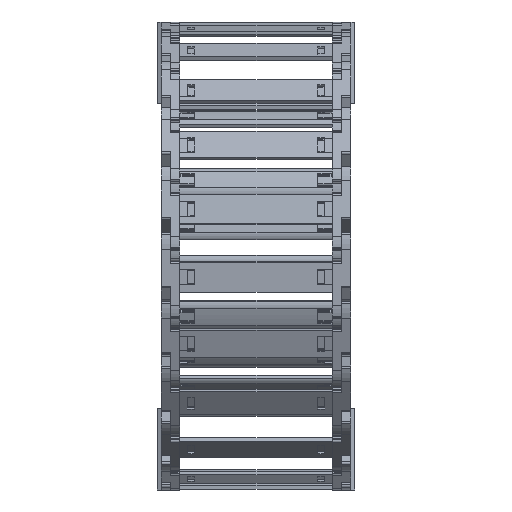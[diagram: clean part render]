
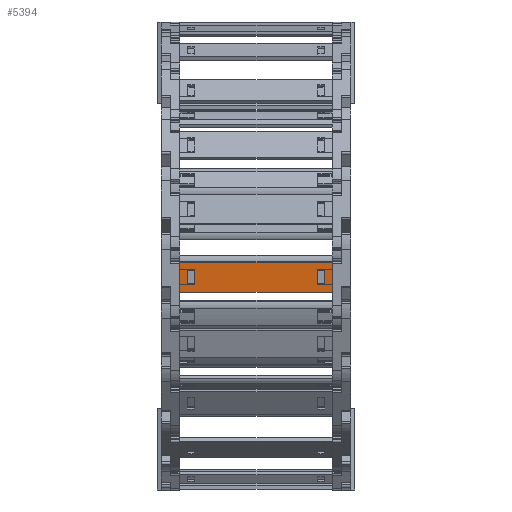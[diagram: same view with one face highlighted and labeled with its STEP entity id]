
A CAD part, left-side view. The second image highlights one B-rep face of the part: STEP entity #5394.
In plain terms, the highlighted planar face has unit normal (-0.996, 0, -0.087) as drawn and (0, 1, 0) by its records, which use the part's own axes.
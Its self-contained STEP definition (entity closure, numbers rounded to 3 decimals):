
#4814=DIRECTION('',(0.,0.,1.));
#4815=VECTOR('',#4814,15.8);
#4816=CARTESIAN_POINT('',(65.74,1.5,-7.9));
#4817=LINE('',#4816,#4815);
#4818=DIRECTION('',(-1.,0.,0.));
#4819=VECTOR('',#4818,80.5);
#4820=CARTESIAN_POINT('',(65.74,1.5,7.9));
#4821=LINE('',#4820,#4819);
#4822=DIRECTION('',(0.,0.,-1.));
#4823=VECTOR('',#4822,15.8);
#4824=CARTESIAN_POINT('',(-14.76,1.5,7.9));
#4825=LINE('',#4824,#4823);
#4826=DIRECTION('',(1.,0.,0.));
#4827=VECTOR('',#4826,3.648);
#4828=CARTESIAN_POINT('',(58.122,1.5,4.075));
#4829=LINE('',#4828,#4827);
#4830=DIRECTION('',(0.,0.,-1.));
#4831=VECTOR('',#4830,8.15);
#4832=CARTESIAN_POINT('',(61.77,1.5,4.075));
#4833=LINE('',#4832,#4831);
#4834=DIRECTION('',(-1.,0.,0.));
#4835=VECTOR('',#4834,3.648);
#4836=CARTESIAN_POINT('',(61.77,1.5,-4.075));
#4837=LINE('',#4836,#4835);
#4838=DIRECTION('',(0.,0.,-1.));
#4839=VECTOR('',#4838,8.15);
#4840=CARTESIAN_POINT('',(-7.142,1.5,4.075));
#4841=LINE('',#4840,#4839);
#4842=DIRECTION('',(-1.,0.,0.));
#4843=VECTOR('',#4842,3.648);
#4844=CARTESIAN_POINT('',(-7.142,1.5,-4.075));
#4845=LINE('',#4844,#4843);
#4846=DIRECTION('',(0.,0.,1.));
#4847=VECTOR('',#4846,8.15);
#4848=CARTESIAN_POINT('',(-10.79,1.5,-4.075));
#4849=LINE('',#4848,#4847);
#4850=DIRECTION('',(1.,0.,0.));
#4851=VECTOR('',#4850,3.648);
#4852=CARTESIAN_POINT('',(-10.79,1.5,4.075));
#4853=LINE('',#4852,#4851);
#4858=DIRECTION('',(-1.,0.,0.));
#4859=VECTOR('',#4858,80.5);
#4860=CARTESIAN_POINT('',(65.74,1.5,-7.9));
#4861=LINE('',#4860,#4859);
#4979=DIRECTION('',(0.,0.,-1.));
#4980=VECTOR('',#4979,8.15);
#4981=CARTESIAN_POINT('',(58.122,1.5,4.075));
#4982=LINE('',#4981,#4980);
#5164=CARTESIAN_POINT('',(61.77,1.5,4.075));
#5165=VERTEX_POINT('',#5164);
#5166=CARTESIAN_POINT('',(58.122,1.5,4.075));
#5167=VERTEX_POINT('',#5166);
#5208=CARTESIAN_POINT('',(58.122,1.5,-4.075));
#5209=VERTEX_POINT('',#5208);
#5210=CARTESIAN_POINT('',(61.77,1.5,-4.075));
#5211=VERTEX_POINT('',#5210);
#5212=CARTESIAN_POINT('',(65.74,1.5,7.9));
#5214=VERTEX_POINT('',#5212);
#5216=CARTESIAN_POINT('',(65.74,1.5,-7.9));
#5217=VERTEX_POINT('',#5216);
#5240=CARTESIAN_POINT('',(-7.142,1.5,4.075));
#5241=CARTESIAN_POINT('',(-7.142,1.5,-4.075));
#5242=VERTEX_POINT('',#5240);
#5243=VERTEX_POINT('',#5241);
#5244=CARTESIAN_POINT('',(-10.79,1.5,-4.075));
#5245=VERTEX_POINT('',#5244);
#5246=CARTESIAN_POINT('',(-10.79,1.5,4.075));
#5247=VERTEX_POINT('',#5246);
#5248=CARTESIAN_POINT('',(-14.76,1.5,7.9));
#5249=VERTEX_POINT('',#5248);
#5252=CARTESIAN_POINT('',(-14.76,1.5,-7.9));
#5253=VERTEX_POINT('',#5252);
#5363=CARTESIAN_POINT('',(97.48,1.5,10.061));
#5364=DIRECTION('',(0.,-1.,0.));
#5365=DIRECTION('',(0.,0.,-1.));
#5366=AXIS2_PLACEMENT_3D('',#5363,#5364,#5365);
#5367=PLANE('',#5366);
#5368=ORIENTED_EDGE('',*,*,#5302,.T.);
#5369=ORIENTED_EDGE('',*,*,#5328,.T.);
#5370=ORIENTED_EDGE('',*,*,#5341,.T.);
#5372=ORIENTED_EDGE('',*,*,#5371,.F.);
#5373=EDGE_LOOP('',(#5368,#5369,#5370,#5372));
#5374=FACE_OUTER_BOUND('',#5373,.F.);
#5376=ORIENTED_EDGE('',*,*,#5375,.F.);
#5377=ORIENTED_EDGE('',*,*,#5265,.T.);
#5379=ORIENTED_EDGE('',*,*,#5378,.T.);
#5381=ORIENTED_EDGE('',*,*,#5380,.T.);
#5382=EDGE_LOOP('',(#5376,#5377,#5379,#5381));
#5383=FACE_BOUND('',#5382,.F.);
#5385=ORIENTED_EDGE('',*,*,#5384,.T.);
#5387=ORIENTED_EDGE('',*,*,#5386,.T.);
#5389=ORIENTED_EDGE('',*,*,#5388,.T.);
#5391=ORIENTED_EDGE('',*,*,#5390,.T.);
#5392=EDGE_LOOP('',(#5385,#5387,#5389,#5391));
#5393=FACE_BOUND('',#5392,.F.);
#5394=ADVANCED_FACE('',(#5374,#5383,#5393),#5367,.F.);
#5265=EDGE_CURVE('',#5167,#5165,#4829,.T.);
#5302=EDGE_CURVE('',#5217,#5214,#4817,.T.);
#5328=EDGE_CURVE('',#5214,#5249,#4821,.T.);
#5341=EDGE_CURVE('',#5249,#5253,#4825,.T.);
#5371=EDGE_CURVE('',#5217,#5253,#4861,.T.);
#5375=EDGE_CURVE('',#5167,#5209,#4982,.T.);
#5378=EDGE_CURVE('',#5165,#5211,#4833,.T.);
#5380=EDGE_CURVE('',#5211,#5209,#4837,.T.);
#5384=EDGE_CURVE('',#5242,#5243,#4841,.T.);
#5386=EDGE_CURVE('',#5243,#5245,#4845,.T.);
#5388=EDGE_CURVE('',#5245,#5247,#4849,.T.);
#5390=EDGE_CURVE('',#5247,#5242,#4853,.T.);
